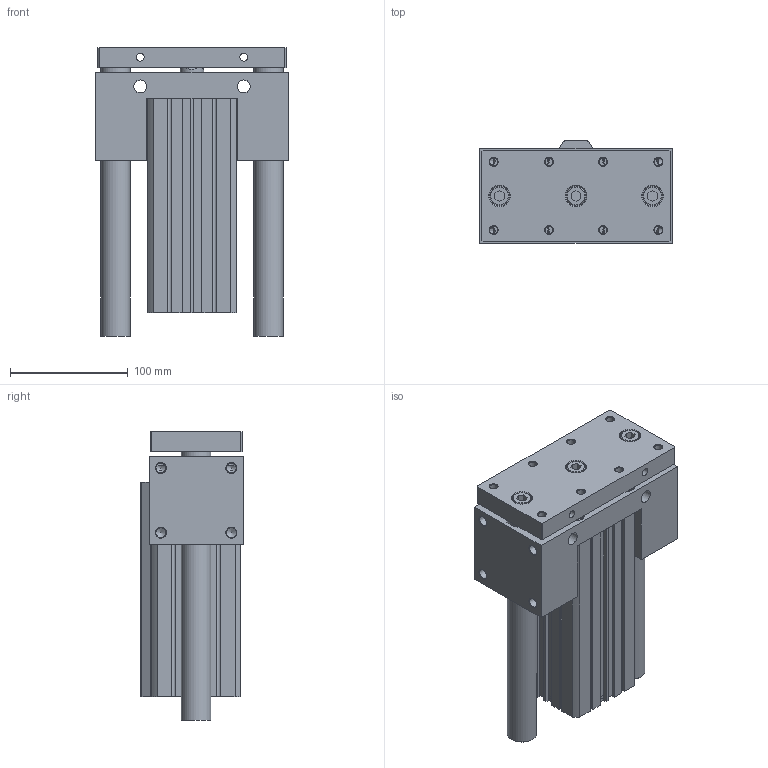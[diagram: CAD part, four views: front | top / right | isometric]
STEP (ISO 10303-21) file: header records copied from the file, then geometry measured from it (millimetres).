
FILE_DESCRIPTION((''),'2;1');
FILE_NAME('I:\3D電子目錄\氣缸\JCB\JCB\JCB63\JCB63x150.stp','2007-09-01T15:28:23',('Administrator'),(''),'Autodesk Inventor 11','Autodesk Inventor 11','');
FILE_SCHEMA(('AUTOMOTIVE_DESIGN { 1 0 10303 214 1 1 1 1 }'));
Length unit declared in the file: millimetre
Products named in the file (1): JCB63
Bounding box: 164 x 87 x 245.5 mm (x, y, z)
Volume: 1932087.2 mm3; surface area: 271635.5 mm2
Topology: 3 solids, 5 shells, 343 faces, 829 edges, 538 vertices
Faces by surface type: plane 186, cylinder 62, cone 47, bspline 40, torus 8
Full cylindrical faces by diameter (mm): 3 x2, 6.8 x4, 8.376 x4, 11 x8, 13 x4, 14 x4, 16 x3, 17.5 x3, 20 x1, 21 x1, 25 x2, 28 x2, 40 x1, 47 x1, 65 x4, 68 x2
Entity records: 10008 total; most frequent: CARTESIAN_POINT 2670, DIRECTION 1474, ORIENTED_EDGE 1320, EDGE_CURVE 660, EDGE_LOOP 554, AXIS2_PLACEMENT_3D 532, VERTEX_POINT 498, VECTOR 410
